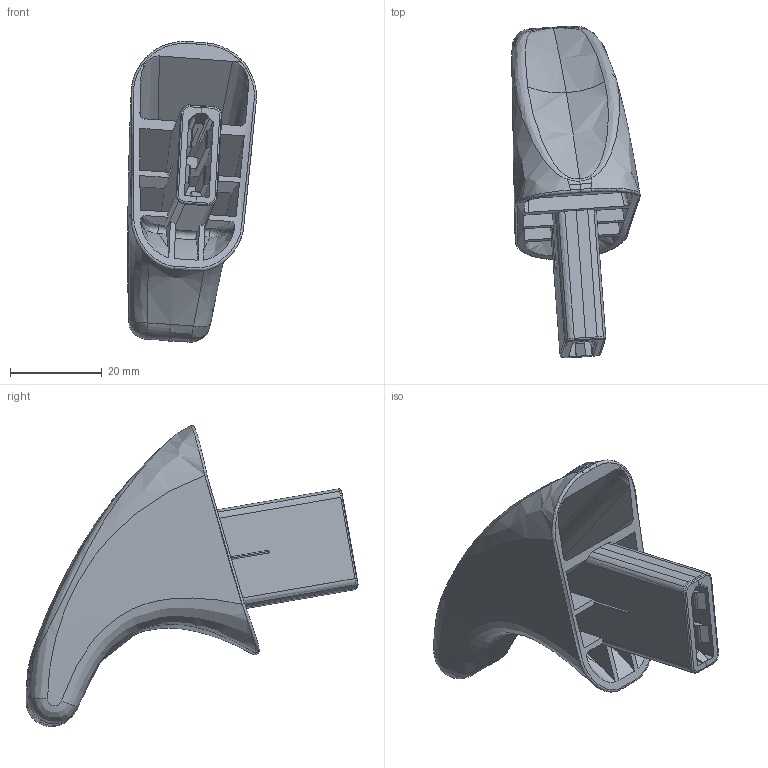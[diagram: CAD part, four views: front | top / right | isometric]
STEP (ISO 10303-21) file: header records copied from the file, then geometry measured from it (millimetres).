
FILE_DESCRIPTION(('CATIA V5 STEP Exchange','CAx-IF Rec.Pracs.--- Model Styling and Organization---1.4--- 2014-01-23'),'2;1');
FILE_NAME('C:\Users\luhaitao\Desktop\靠背一键放倒功能\第四次样件\SHT0016875-002.stp','2025-10-29T01:04:17+00:00',('none'),('none'),'CATIA Version 5-6 Release 2017','CATIA V5 STEP AP214','none');
FILE_SCHEMA(('AUTOMOTIVE_DESIGN { 1 0 10303 214 1 1 1 1 }'));
Length unit declared in the file: millimetre
Products named in the file (1): SHT0016875-002
Bounding box: 28.02 x 72.34 x 65.62 mm (x, y, z)
Volume: 22676 mm3; surface area: 15296.2 mm2
Topology: 1 solids, 1 shells, 220 faces, 585 edges, 365 vertices
Faces by surface type: bspline 137, plane 68, cylinder 11, sphere 4
Entity records: 15529 total; most frequent: CARTESIAN_POINT 11486, ORIENTED_EDGE 1162, EDGE_CURVE 581, VERTEX_POINT 365, DIRECTION 340, B_SPLINE_CURVE_WITH_KNOTS 304, EDGE_LOOP 222, ADVANCED_FACE 220
